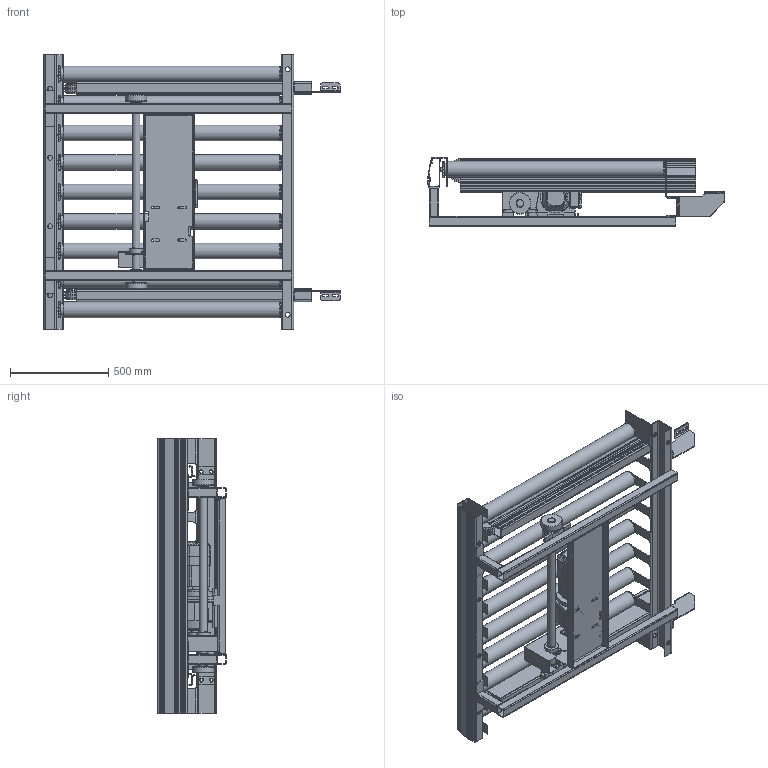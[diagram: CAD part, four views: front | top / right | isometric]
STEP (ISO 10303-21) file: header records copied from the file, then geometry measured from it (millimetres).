
FILE_DESCRIPTION(/* description */ (''),/* implementation_level */ '2;1');
FILE_NAME(/* name */ 'C:\Vault_Working_Folder\Designs\Hemsida\2021\IXVR 80-02-1150.stp',/* time_stamp */ '2021-04-09T11:10:19+02:00',/* author */ ('Patrik.Karlsson'),/* organization */ (''),/* preprocessor_version */ 'ST-DEVELOPER v18.1',/* originating_system */ 'Autodesk Inventor 2021',/* authorisation */ '');
FILE_SCHEMA (('AUTOMOTIVE_DESIGN { 1 0 10303 214 3 1 1 }'));
Length unit declared in the file: millimetre
Products named in the file (1): IXVR 80-02-1150
Bounding box: 1508.5 x 350 x 1400 mm (x, y, z)
Volume: 78103950 mm3; surface area: 10371685.3 mm2
Topology: 5 solids, 5 shells, 3032 faces, 8567 edges, 5592 vertices
Faces by surface type: cylinder 1362, plane 1117, torus 367, bspline 99, cone 76, sphere 11
Full cylindrical faces by diameter (mm): 11 x1, 13 x1, 14 x6, 20 x10, 22 x9, 24 x4, 26 x4, 28 x2, 35 x1, 40 x3, 53.333 x4, 60 x9, 70 x1, 80 x14, 89 x4, 110 x2, 160 x1
Entity records: 120211 total; most frequent: CARTESIAN_POINT 42065, ORIENTED_EDGE 17120, DIRECTION 15802, EDGE_CURVE 8560, AXIS2_PLACEMENT_3D 5770, VERTEX_POINT 5592, LINE 4262, VECTOR 4262
